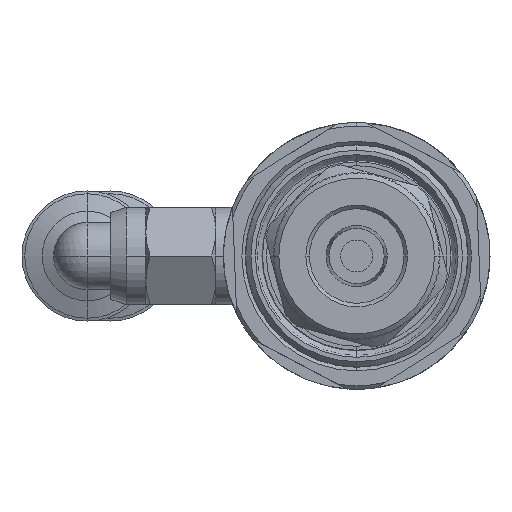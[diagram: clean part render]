
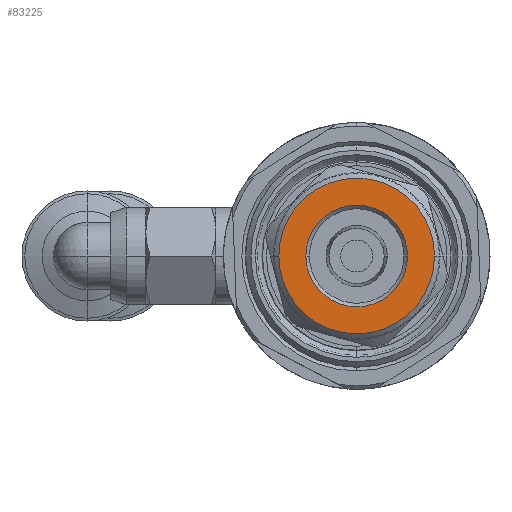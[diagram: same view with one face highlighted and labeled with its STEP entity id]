
A CAD part, front view. The second image highlights one B-rep face of the part: STEP entity #83225.
In plain terms, the highlighted planar face has unit normal (0, -1, 0).
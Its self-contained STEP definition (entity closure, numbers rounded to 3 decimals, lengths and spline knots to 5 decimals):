
#1564 = CARTESIAN_POINT ( 'NONE',  ( 0.219, -2.32107, 0. ) ) ;
#1585 = EDGE_LOOP ( 'NONE', ( #13843, #55017 ) ) ;
#6098 = DIRECTION ( 'NONE',  ( 0., 1., 0. ) ) ;
#9732 = EDGE_LOOP ( 'NONE', ( #61106, #67042 ) ) ;
#9770 = CIRCLE ( 'NONE', #11980, 0.143 ) ;
#10058 = EDGE_CURVE ( 'NONE', #25912, #55409, #100062, .T. ) ;
#11980 = AXIS2_PLACEMENT_3D ( 'NONE', #58871, #6098, #67745 ) ;
#13843 = ORIENTED_EDGE ( 'NONE', *, *, #20555, .T. ) ;
#18980 = VERTEX_POINT ( 'NONE', #34469 ) ;
#20555 = EDGE_CURVE ( 'NONE', #36223, #18980, #108875, .T. ) ;
#23304 = DIRECTION ( 'NONE',  ( 0., 1., 0. ) ) ;
#25912 = VERTEX_POINT ( 'NONE', #1564 ) ;
#27138 = AXIS2_PLACEMENT_3D ( 'NONE', #70052, #44944, #106350 ) ;
#34469 = CARTESIAN_POINT ( 'NONE',  ( -0.143, -2.32107, 0. ) ) ;
#35223 = FACE_BOUND ( 'NONE', #1585, .T. ) ;
#36223 = VERTEX_POINT ( 'NONE', #94529 ) ;
#40890 = AXIS2_PLACEMENT_3D ( 'NONE', #45380, #106753, #54255 ) ;
#42317 = AXIS2_PLACEMENT_3D ( 'NONE', #76002, #23304, #84734 ) ;
#43877 = DIRECTION ( 'NONE',  ( 0., 1., 0. ) ) ;
#44944 = DIRECTION ( 'NONE',  ( 0., 1., 0. ) ) ;
#45380 = CARTESIAN_POINT ( 'NONE',  ( 0., -2.32107, 0. ) ) ;
#54255 = DIRECTION ( 'NONE',  ( -1., 0., 0. ) ) ;
#55017 = ORIENTED_EDGE ( 'NONE', *, *, #90864, .T. ) ;
#55409 = VERTEX_POINT ( 'NONE', #91448 ) ;
#57226 = AXIS2_PLACEMENT_3D ( 'NONE', #96409, #43877, #105277 ) ;
#58871 = CARTESIAN_POINT ( 'NONE',  ( 0., -2.32107, 0. ) ) ;
#61106 = ORIENTED_EDGE ( 'NONE', *, *, #101434, .F. ) ;
#67042 = ORIENTED_EDGE ( 'NONE', *, *, #10058, .F. ) ;
#67745 = DIRECTION ( 'NONE',  ( 1., 0., 0. ) ) ;
#70052 = CARTESIAN_POINT ( 'NONE',  ( 0., -2.32107, 0. ) ) ;
#76002 = CARTESIAN_POINT ( 'NONE',  ( 0., -2.32107, 0. ) ) ;
#82002 = FACE_OUTER_BOUND ( 'NONE', #9732, .T. ) ;
#83225 = ADVANCED_FACE ( 'NONE', ( #82002, #35223 ), #97471, .F. ) ;
#84734 = DIRECTION ( 'NONE',  ( -1., 0., 0. ) ) ;
#90864 = EDGE_CURVE ( 'NONE', #18980, #36223, #9770, .T. ) ;
#91448 = CARTESIAN_POINT ( 'NONE',  ( -0.219, -2.32107, 0. ) ) ;
#94529 = CARTESIAN_POINT ( 'NONE',  ( 0.143, -2.32107, 0. ) ) ;
#96409 = CARTESIAN_POINT ( 'NONE',  ( 0., -2.32107, 0. ) ) ;
#97471 = PLANE ( 'NONE',  #27138 ) ;
#100062 = CIRCLE ( 'NONE', #40890, 0.219 ) ;
#101434 = EDGE_CURVE ( 'NONE', #55409, #25912, #104957, .T. ) ;
#104957 = CIRCLE ( 'NONE', #42317, 0.219 ) ;
#105277 = DIRECTION ( 'NONE',  ( 1., 0., 0. ) ) ;
#106350 = DIRECTION ( 'NONE',  ( -1., 0., 0. ) ) ;
#106753 = DIRECTION ( 'NONE',  ( 0., 1., 0. ) ) ;
#108875 = CIRCLE ( 'NONE', #57226, 0.143 ) ;
